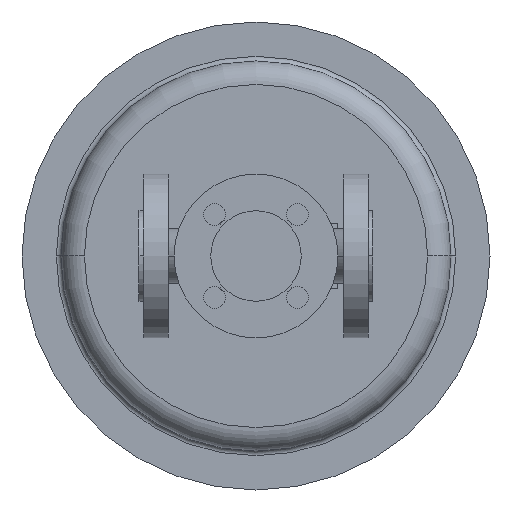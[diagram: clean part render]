
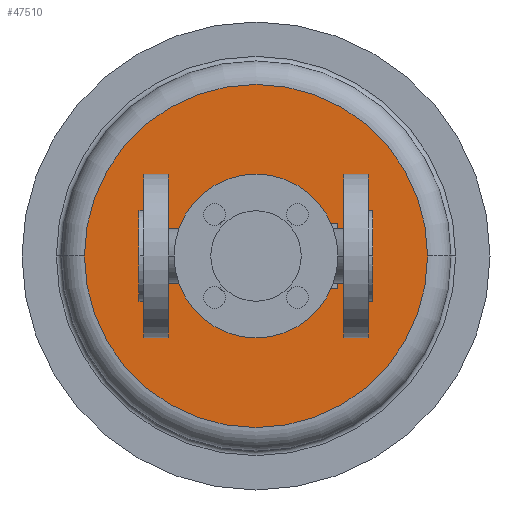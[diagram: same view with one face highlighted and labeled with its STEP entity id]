
A CAD part, front view. The second image highlights one B-rep face of the part: STEP entity #47510.
In plain terms, the highlighted planar face has unit normal (0, -1, 0).
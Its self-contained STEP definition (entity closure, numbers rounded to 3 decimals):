
#37360=CARTESIAN_POINT('',(185.,356.,0.));
#37370=VERTEX_POINT('',#37360);
#37470=CARTESIAN_POINT('',(-35.,356.,0.));
#37480=VERTEX_POINT('',#37470);
#37510=CARTESIAN_POINT('',(75.,356.,0.));
#37520=DIRECTION('',(0.,1.,0.));
#37530=DIRECTION('',(1.,0.,0.));
#37540=AXIS2_PLACEMENT_3D('',#37510,#37520,#37530);
#37550=CIRCLE('',#37540,110.);
#37560=CARTESIAN_POINT('',(75.,356.,-110.));
#37570=VERTEX_POINT('',#37560);
#37580=EDGE_CURVE('',#37570,#37480,#37550,.T.);
#37600=EDGE_CURVE('',#37370,#37570,#37550,.T.);
#38180=CARTESIAN_POINT('',(140.,356.,0.));
#38190=VERTEX_POINT('',#38180);
#38350=CARTESIAN_POINT('',(110.,356.,0.));
#38360=VERTEX_POINT('',#38350);
#38390=CARTESIAN_POINT('',(125.,356.,0.));
#38400=DIRECTION('',(0.,1.,0.));
#38410=DIRECTION('',(1.,0.,0.));
#38420=AXIS2_PLACEMENT_3D('',#38390,#38400,#38410);
#38430=CIRCLE('',#38420,15.);
#38440=EDGE_CURVE('',#38360,#38190,#38430,.T.);
#38600=CARTESIAN_POINT('',(10.,356.,0.));
#38610=VERTEX_POINT('',#38600);
#38640=CARTESIAN_POINT('',(25.,356.,0.));
#38650=DIRECTION('',(0.,1.,0.));
#38660=DIRECTION('',(1.,0.,0.));
#38670=AXIS2_PLACEMENT_3D('',#38640,#38650,#38660);
#38680=CIRCLE('',#38670,15.);
#38690=CARTESIAN_POINT('',(40.,356.,0.));
#38700=VERTEX_POINT('',#38690);
#38710=EDGE_CURVE('',#38610,#38700,#38680,.T.);
#39000=CARTESIAN_POINT('',(56.55,356.,0.));
#39010=VERTEX_POINT('',#39000);
#39060=CARTESIAN_POINT('',(75.,356.,0.));
#39070=DIRECTION('',(0.,1.,0.));
#39080=DIRECTION('',(1.,0.,0.));
#39090=AXIS2_PLACEMENT_3D('',#39060,#39070,#39080);
#39100=CIRCLE('',#39090,18.45);
#39110=CARTESIAN_POINT('',(93.45,356.,0.));
#39120=VERTEX_POINT('',#39110);
#39130=EDGE_CURVE('',#39010,#39120,#39100,.T.);
#47250=CARTESIAN_POINT('',(130.,356.,0.));
#47260=DIRECTION('',(0.,-1.,0.));
#47270=DIRECTION('',(-1.,0.,0.));
#47280=AXIS2_PLACEMENT_3D('',#47250,#47260,#47270);
#47290=PLANE('',#47280);
#47300=EDGE_CURVE('',#39120,#39010,#39100,.T.);
#47310=ORIENTED_EDGE('',*,*,#47300,.T.);
#47320=ORIENTED_EDGE('',*,*,#39130,.T.);
#47330=EDGE_LOOP('',(#47320,#47310));
#47340=FACE_BOUND('',#47330,.T.);
#47350=ORIENTED_EDGE('',*,*,#38710,.T.);
#47360=EDGE_CURVE('',#38700,#38610,#38680,.T.);
#47370=ORIENTED_EDGE('',*,*,#47360,.T.);
#47380=EDGE_LOOP('',(#47370,#47350));
#47390=FACE_BOUND('',#47380,.T.);
#47400=EDGE_CURVE('',#38190,#38360,#38430,.T.);
#47410=ORIENTED_EDGE('',*,*,#47400,.T.);
#47420=ORIENTED_EDGE('',*,*,#38440,.T.);
#47430=EDGE_LOOP('',(#47420,#47410));
#47440=FACE_BOUND('',#47430,.T.);
#47450=ORIENTED_EDGE('',*,*,#37580,.F.);
#47460=EDGE_CURVE('',#37480,#37370,#37550,.T.);
#47470=ORIENTED_EDGE('',*,*,#47460,.F.);
#47480=ORIENTED_EDGE('',*,*,#37600,.F.);
#47490=EDGE_LOOP('',(#47480,#47470,#47450));
#47500=FACE_OUTER_BOUND('',#47490,.T.);
#47510=ADVANCED_FACE('',(#47340,#47390,#47440,#47500),#47290,.T.);
